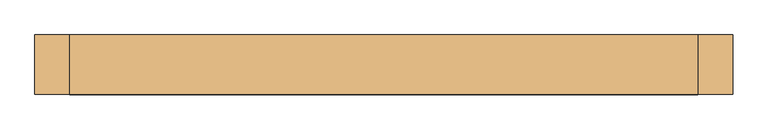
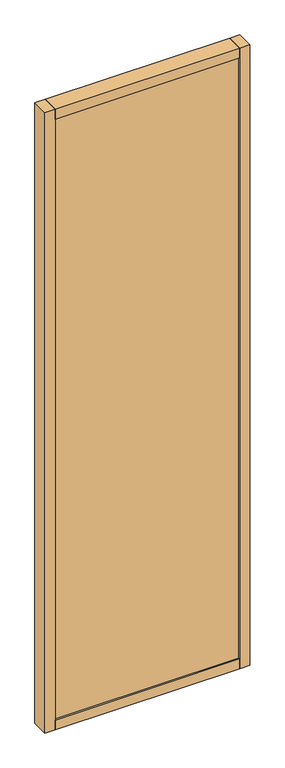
"""IFC4 building model written with IfcOpenShell, lengths in millimetres: door geometry, Mobiliário_Mobiliário de Escritório_Painel Vidro Duplo - DVDT, DVDL e DVXL (Completo)_Marelli : DV1DT - 10mm + 10mm - Temperado."""

from ifc_helpers import new_model, si_unit, frame, origin, origin_with_axes, place, context, project, spatial, polyline, outline, extrude, source, transform, mapped, element, save


def door_b99cb2b5(model_context):
    return source(origin(), model_context, "Body", "SweptSolid", [
        extrude(outline(polyline([(450.0, 42.5), (450.0, -42.5), (-450.0, -42.5), (-450.0, 42.5), (450.0, 42.5)])), origin_with_axes(), (0.0, 0.0, 1.0), 50.0),
        extrude(outline(polyline([(450.0, 42.5), (450.0, -42.5), (-450.0, -42.5), (-450.0, 42.5), (450.0, 42.5)])), frame((0.0, 0.0, 3150.0), z_axis=(0.0, 0.0, 1.0), x_axis=(1.0, 0.0, 0.0)), (0.0, 0.0, 1.0), 50.0),
        extrude(outline(polyline([(-500.0, -42.5), (-500.0, 42.5), (-450.0, 42.5), (-450.0, -42.5), (-500.0, -42.5)])), origin_with_axes(), (0.0, 0.0, 1.0), 3200.0),
        extrude(outline(polyline([(500.0, -42.5), (450.0, -42.5), (450.0, 42.5), (500.0, 42.5), (500.0, -42.5)])), origin_with_axes(), (0.0, 0.0, 1.0), 3200.0),
        extrude(outline(polyline([(450.0, 35.1), (450.0, 25.1), (-450.0, 25.1), (-450.0, 35.1), (450.0, 35.1)])), frame((0.0, 0.0, 50.0), z_axis=(0.0, 0.0, 1.0), x_axis=(1.0, 0.0, 0.0)), (0.0, 0.0, 1.0), 3100.0),
        extrude(outline(polyline([(450.0, -35.1), (-450.0, -35.1), (-450.0, -25.1), (450.0, -25.1), (450.0, -35.1)])), frame((0.0, 0.0, 50.0), z_axis=(0.0, 0.0, 1.0), x_axis=(1.0, 0.0, 0.0)), (0.0, 0.0, 1.0), 3100.0),
    ])


if __name__ == "__main__":
    model = new_model("IFC4")
    model_context = context("Model", 3, world=origin())
    ifc_project = project(units=[si_unit("LENGTHUNIT", "METRE", prefix="MILLI")], contexts=[model_context])
    site = spatial("IfcSite", under=ifc_project)
    building = spatial("IfcBuilding", under=site)
    placement = place(None, origin())
    door_shape = door_b99cb2b5(model_context)
    element("IfcDoor", 1, ObjectType="Mobiliário_Mobiliário de Escritório_Painel Vidro Duplo - DVDT, DVDL e DVXL (Completo)_Marelli : DV1DT - 10mm + 10mm - Temperado", at=placement, inside=building, context=model_context, shape_type="MappedRepresentation", body=[
        mapped(door_shape, transform((0.0, 0.0, 0.0), x_axis=(1.0, 0.0, 0.0), y_axis=(0.0, 1.0, 0.0), z_axis=(0.0, 0.0, 1.0))),
    ])
    save(model, "model.ifc")
